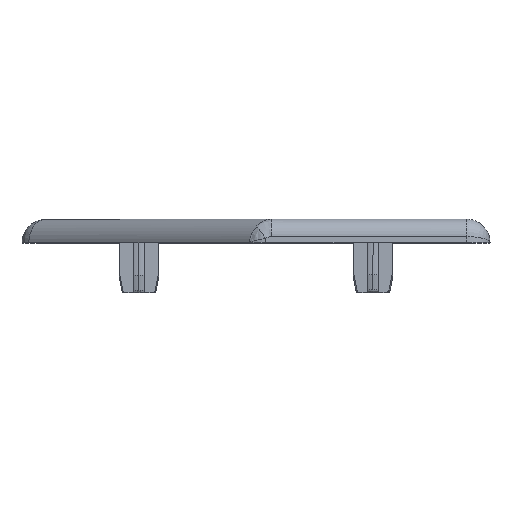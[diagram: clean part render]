
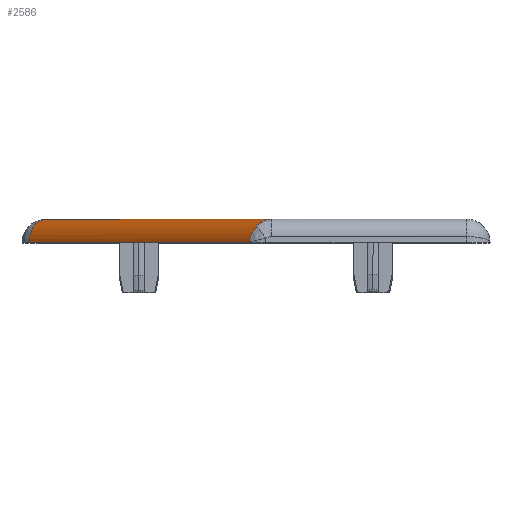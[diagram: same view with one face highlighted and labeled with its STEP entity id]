
A CAD part, top view. The second image highlights one B-rep face of the part: STEP entity #2586.
In plain terms, the highlighted cylindrical face has radius 4 mm (diameter 8 mm), a partial arc.
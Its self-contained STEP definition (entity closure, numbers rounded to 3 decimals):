
#36 = CARTESIAN_POINT ( 'NONE',  ( 1.245, -0.333, 37.847 ) ) ;
#105 = ORIENTED_EDGE ( 'NONE', *, *, #329, .T. ) ;
#138 = AXIS2_PLACEMENT_3D ( 'NONE', #4384, #4396, #2611 ) ;
#287 = CARTESIAN_POINT ( 'NONE',  ( -0.782, -2.684, 38.904 ) ) ;
#308 = CARTESIAN_POINT ( 'NONE',  ( -0.7, -2.5, 38.887 ) ) ;
#329 = EDGE_CURVE ( 'NONE', #3855, #658, #907, .T. ) ;
#352 = ORIENTED_EDGE ( 'NONE', *, *, #1781, .F. ) ;
#454 = ORIENTED_EDGE ( 'NONE', *, *, #1044, .T. ) ;
#500 = CARTESIAN_POINT ( 'NONE',  ( -1.042, -3.409, 38.908 ) ) ;
#626 = B_SPLINE_CURVE_WITH_KNOTS ( 'NONE', 3,
 ( #4123, #3883, #500, #2806, #1696, #3162, #287, #2043, #3523, #2461, #308, #4619, #2085, #2010, #753, #3118, #4549 ),
 .UNSPECIFIED., .F., .F.,
 ( 4, 2, 2, 2, 1, 1, 1, 2, 2, 4 ),
 ( 0., 0.25, 0.375, 0.437, 0.469, 0.484, 0.492, 0.496, 0.5, 1. ),
 .UNSPECIFIED. ) ;
#630 = EDGE_LOOP ( 'NONE', ( #105, #352, #454, #4413, #1702 ) ) ;
#658 = VERTEX_POINT ( 'NONE', #1016 ) ;
#753 = CARTESIAN_POINT ( 'NONE',  ( -0.438, -1.94, 38.823 ) ) ;
#894 = CARTESIAN_POINT ( 'NONE',  ( -36.03, 0., -1.687 ) ) ;
#907 = CIRCLE ( 'NONE', #3752, 4. ) ;
#959 = CARTESIAN_POINT ( 'NONE',  ( 1.443, -0.239, 37.728 ) ) ;
#985 = B_SPLINE_CURVE_WITH_KNOTS ( 'NONE', 3,
 ( #2164, #4335, #4244, #2765, #2100, #2477, #1471, #3560, #36, #1010, #1085, #3724, #4372, #959, #4212, #3866, #2046, #4581 ),
 .UNSPECIFIED., .F., .F.,
 ( 4, 2, 2, 1, 1, 1, 1, 2, 2, 2, 4 ),
 ( 0., 0.25, 0.375, 0.437, 0.469, 0.484, 0.492, 0.496, 0.5, 0.75, 1. ),
 .UNSPECIFIED. ) ;
#1010 = CARTESIAN_POINT ( 'NONE',  ( 1.27, -0.321, 37.832 ) ) ;
#1016 = CARTESIAN_POINT ( 'NONE',  ( -38.828, -4., 1.172 ) ) ;
#1044 = EDGE_CURVE ( 'NONE', #1969, #3450, #626, .T. ) ;
#1085 = CARTESIAN_POINT ( 'NONE',  ( 1.281, -0.315, 37.826 ) ) ;
#1090 = EDGE_CURVE ( 'NONE', #3450, #4142, #985, .T. ) ;
#1128 = LINE ( 'NONE', #894, #2958 ) ;
#1372 = DIRECTION ( 'NONE',  ( -0.707, 0., -0.707 ) ) ;
#1471 = CARTESIAN_POINT ( 'NONE',  ( 1.098, -0.409, 37.936 ) ) ;
#1696 = CARTESIAN_POINT ( 'NONE',  ( -0.872, -2.907, 38.915 ) ) ;
#1702 = ORIENTED_EDGE ( 'NONE', *, *, #4385, .T. ) ;
#1781 = EDGE_CURVE ( 'NONE', #1969, #658, #3925, .T. ) ;
#1811 = CARTESIAN_POINT ( 'NONE',  ( -1.172, -4., 38.828 ) ) ;
#1969 = VERTEX_POINT ( 'NONE', #3499 ) ;
#2010 = CARTESIAN_POINT ( 'NONE',  ( -0.692, -2.482, 38.885 ) ) ;
#2043 = CARTESIAN_POINT ( 'NONE',  ( -0.747, -2.605, 38.897 ) ) ;
#2046 = CARTESIAN_POINT ( 'NONE',  ( 2.351, 0., 37.183 ) ) ;
#2085 = CARTESIAN_POINT ( 'NONE',  ( -0.693, -2.484, 38.885 ) ) ;
#2100 = CARTESIAN_POINT ( 'NONE',  ( 0.859, -0.553, 38.079 ) ) ;
#2164 = CARTESIAN_POINT ( 'NONE',  ( 0.157, -1.172, 38.5 ) ) ;
#2176 = DIRECTION ( 'NONE',  ( -0.707, 0., -0.707 ) ) ;
#2461 = CARTESIAN_POINT ( 'NONE',  ( -0.71, -2.522, 38.89 ) ) ;
#2477 = CARTESIAN_POINT ( 'NONE',  ( 1.017, -0.456, 37.984 ) ) ;
#2510 = CARTESIAN_POINT ( 'NONE',  ( 0.157, -1.172, 38.5 ) ) ;
#2586 = ADVANCED_FACE ( 'NONE', ( #2804 ), #4604, .T. ) ;
#2611 = DIRECTION ( 'NONE',  ( -0.707, 0., 0.707 ) ) ;
#2765 = CARTESIAN_POINT ( 'NONE',  ( 0.759, -0.623, 38.139 ) ) ;
#2804 = FACE_OUTER_BOUND ( 'NONE', #630, .T. ) ;
#2806 = CARTESIAN_POINT ( 'NONE',  ( -0.916, -3.027, 38.917 ) ) ;
#2958 = VECTOR ( 'NONE', #2176, 1000. ) ;
#2965 = VECTOR ( 'NONE', #1372, 1000. ) ;
#3118 = CARTESIAN_POINT ( 'NONE',  ( -0.137, -1.505, 38.677 ) ) ;
#3162 = CARTESIAN_POINT ( 'NONE',  ( -0.804, -2.738, 38.907 ) ) ;
#3203 = CARTESIAN_POINT ( 'NONE',  ( 2.657, 0., 37. ) ) ;
#3314 = CARTESIAN_POINT ( 'NONE',  ( -36., -4., -1.657 ) ) ;
#3392 = CARTESIAN_POINT ( 'NONE',  ( -36., 0., -1.657 ) ) ;
#3450 = VERTEX_POINT ( 'NONE', #2510 ) ;
#3499 = CARTESIAN_POINT ( 'NONE',  ( -1.172, -4., 38.828 ) ) ;
#3523 = CARTESIAN_POINT ( 'NONE',  ( -0.73, -2.566, 38.894 ) ) ;
#3560 = CARTESIAN_POINT ( 'NONE',  ( 1.195, -0.358, 37.877 ) ) ;
#3718 = DIRECTION ( 'NONE',  ( 0.707, 0., 0.707 ) ) ;
#3724 = CARTESIAN_POINT ( 'NONE',  ( 1.288, -0.312, 37.821 ) ) ;
#3752 = AXIS2_PLACEMENT_3D ( 'NONE', #3314, #3718, #4453 ) ;
#3855 = VERTEX_POINT ( 'NONE', #3392 ) ;
#3866 = CARTESIAN_POINT ( 'NONE',  ( 2.083, -0.044, 37.345 ) ) ;
#3883 = CARTESIAN_POINT ( 'NONE',  ( -1.117, -3.692, 38.883 ) ) ;
#3925 = LINE ( 'NONE', #1811, #2965 ) ;
#4123 = CARTESIAN_POINT ( 'NONE',  ( -1.172, -4., 38.828 ) ) ;
#4142 = VERTEX_POINT ( 'NONE', #3203 ) ;
#4212 = CARTESIAN_POINT ( 'NONE',  ( 1.629, -0.164, 37.617 ) ) ;
#4244 = CARTESIAN_POINT ( 'NONE',  ( 0.474, -0.843, 38.31 ) ) ;
#4335 = CARTESIAN_POINT ( 'NONE',  ( 0.305, -1.004, 38.411 ) ) ;
#4372 = CARTESIAN_POINT ( 'NONE',  ( 1.293, -0.31, 37.818 ) ) ;
#4384 = CARTESIAN_POINT ( 'NONE',  ( -36.03, -4., -1.687 ) ) ;
#4385 = EDGE_CURVE ( 'NONE', #4142, #3855, #1128, .T. ) ;
#4396 = DIRECTION ( 'NONE',  ( 0.707, 0., 0.707 ) ) ;
#4413 = ORIENTED_EDGE ( 'NONE', *, *, #1090, .T. ) ;
#4453 = DIRECTION ( 'NONE',  ( -0.707, 0., 0.707 ) ) ;
#4549 = CARTESIAN_POINT ( 'NONE',  ( 0.157, -1.172, 38.5 ) ) ;
#4581 = CARTESIAN_POINT ( 'NONE',  ( 2.657, 0., 37. ) ) ;
#4604 = CYLINDRICAL_SURFACE ( 'NONE', #138, 4. ) ;
#4619 = CARTESIAN_POINT ( 'NONE',  ( -0.696, -2.491, 38.886 ) ) ;
